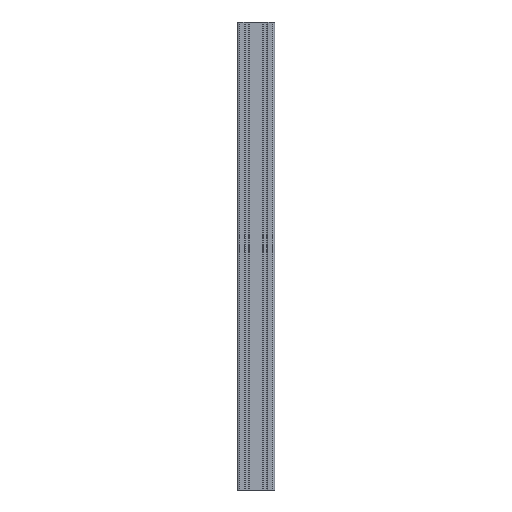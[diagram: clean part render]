
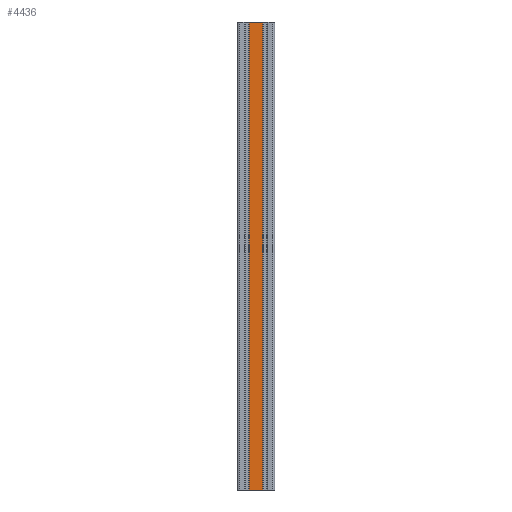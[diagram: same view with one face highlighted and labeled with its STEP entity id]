
A CAD part, left-side view. The second image highlights one B-rep face of the part: STEP entity #4436.
In plain terms, the highlighted planar face has unit normal (-1, 0, 0).
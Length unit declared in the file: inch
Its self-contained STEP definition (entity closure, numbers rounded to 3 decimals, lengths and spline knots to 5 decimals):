
#115=PLANE('',#4897);
#318=FACE_OUTER_BOUND('',#549,.T.);
#549=EDGE_LOOP('',(#3753,#3754,#3755,#3756));
#1005=LINE('',#6913,#1435);
#1204=LINE('',#7486,#1634);
#1205=LINE('',#7489,#1635);
#1206=LINE('',#7490,#1636);
#1435=VECTOR('',#5505,0.3937);
#1634=VECTOR('',#6128,0.3937);
#1635=VECTOR('',#6131,0.3937);
#1636=VECTOR('',#6132,0.3937);
#1934=VERTEX_POINT('',#6910);
#1935=VERTEX_POINT('',#6912);
#2097=VERTEX_POINT('',#7484);
#2098=VERTEX_POINT('',#7488);
#2436=EDGE_CURVE('',#1934,#1935,#1005,.T.);
#2723=EDGE_CURVE('',#1934,#2097,#1204,.T.);
#2724=EDGE_CURVE('',#2098,#2097,#1205,.T.);
#2725=EDGE_CURVE('',#1935,#2098,#1206,.T.);
#3753=ORIENTED_EDGE('',*,*,#2723,.T.);
#3754=ORIENTED_EDGE('',*,*,#2724,.F.);
#3755=ORIENTED_EDGE('',*,*,#2725,.F.);
#3756=ORIENTED_EDGE('',*,*,#2436,.F.);
#4436=ADVANCED_FACE('',(#318),#115,.T.);
#4897=AXIS2_PLACEMENT_3D('',#7487,#6129,#6130);
#5505=DIRECTION('',(0.,1.,0.));
#6128=DIRECTION('',(0.,0.,1.));
#6129=DIRECTION('center_axis',(-1.,0.,0.));
#6130=DIRECTION('ref_axis',(0.,-1.,0.));
#6131=DIRECTION('',(0.,-1.,0.));
#6132=DIRECTION('',(0.,0.,1.));
#6910=CARTESIAN_POINT('',(-0.7874,-0.57087,-19.68504));
#6912=CARTESIAN_POINT('',(-0.7874,0.57087,-19.68504));
#6913=CARTESIAN_POINT('',(-0.7874,0.57087,-19.68504));
#7484=CARTESIAN_POINT('',(-0.7874,-0.57087,19.68504));
#7486=CARTESIAN_POINT('',(-0.7874,-0.57087,0.));
#7487=CARTESIAN_POINT('Origin',(-0.7874,0.57087,0.));
#7488=CARTESIAN_POINT('',(-0.7874,0.57087,19.68504));
#7489=CARTESIAN_POINT('',(-0.7874,0.57087,19.68504));
#7490=CARTESIAN_POINT('',(-0.7874,0.57087,0.));
